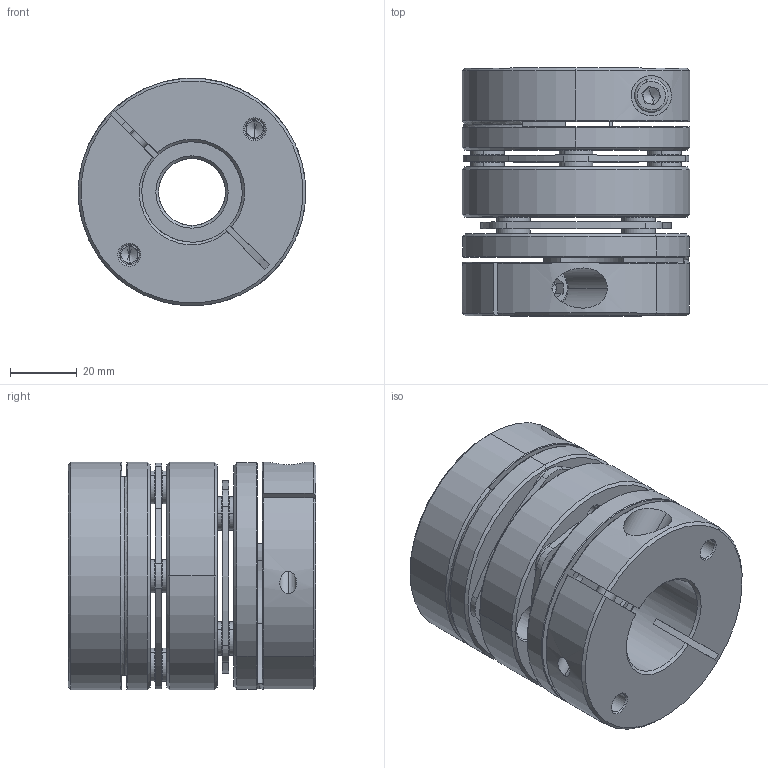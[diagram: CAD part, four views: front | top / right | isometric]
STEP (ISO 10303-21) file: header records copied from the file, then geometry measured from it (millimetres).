
FILE_DESCRIPTION (( 'STEP AP203' ), '1' );
FILE_NAME ('LD2-D68-20-30.STEP', '2021-10-26T08:36:17', ( '' ), ( '' ), 'SwSTEP 2.0', 'SolidWorks 2018', '' );
FILE_SCHEMA (( 'CONFIG_CONTROL_DESIGN' ));
Length unit declared in the file: millimetre
Products named in the file (2): LD2-D68-20-30; 錨璃102^LD2-D68
Assembly tree (1 placements, depth 2):
  LD2-D68-20-30
    錨璃102^LD2-D68
Bounding box: 68 x 74 x 68 mm (x, y, z)
Volume: 180799.9 mm3; surface area: 63818.2 mm2
Topology: 1 solids, 27 shells, 736 faces, 1708 edges, 1040 vertices
Faces by surface type: cylinder 258, cone 226, plane 222, torus 30
Entity records: 21536 total; most frequent: DIRECTION 4002, CARTESIAN_POINT 3933, ORIENTED_EDGE 3368, EDGE_CURVE 1684, AXIS2_PLACEMENT_3D 1625, VERTEX_POINT 1040, CIRCLE 885, EDGE_LOOP 872
